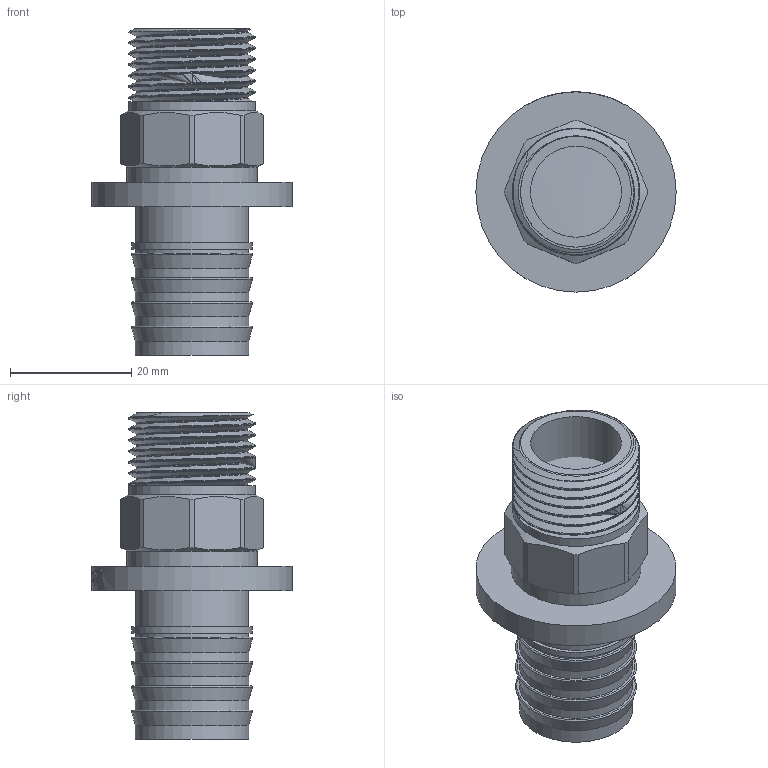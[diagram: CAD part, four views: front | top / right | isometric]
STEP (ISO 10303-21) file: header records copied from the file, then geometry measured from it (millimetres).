
FILE_DESCRIPTION(/* description */ (''),/* implementation_level */ '2;1');
FILE_NAME(/* name */ 'C:\Users\Doom\Desktop\Фадотех\Натяжка\FD-SFM15 20.04.2020\FADO-SFM15 20.04.2020.stp',/* time_stamp */ '2022-07-23T15:11:08+03:00',/* author */ ('Doom'),/* organization */ (''),/* preprocessor_version */ 'ST-DEVELOPER v18',/* originating_system */ 'Autodesk Inventor 2020',/* authorisation */ '');
FILE_SCHEMA (('AUTOMOTIVE_DESIGN { 1 0 10303 214 3 1 1 }'));
Length unit declared in the file: millimetre
Products named in the file (1): FADO-SFM15 20.04.2020
Bounding box: 33 x 33 x 53.8 mm (x, y, z)
Volume: 10234.6 mm3; surface area: 9849 mm2
Topology: 2 solids, 2 shells, 187 faces, 518 edges, 354 vertices
Faces by surface type: plane 69, bspline 65, cylinder 40, cone 9, torus 4
Full cylindrical faces by diameter (mm): 14.7 x1, 15 x1, 18.26 x2, 18.626 x2, 18.668 x3, 18.687 x1, 19.9 x1, 20.95 x7, 21.5 x1, 33 x1
Entity records: 11126 total; most frequent: CARTESIAN_POINT 6634, ORIENTED_EDGE 1036, DIRECTION 756, EDGE_CURVE 518, VERTEX_POINT 354, AXIS2_PLACEMENT_3D 282, EDGE_LOOP 210, LINE 192
